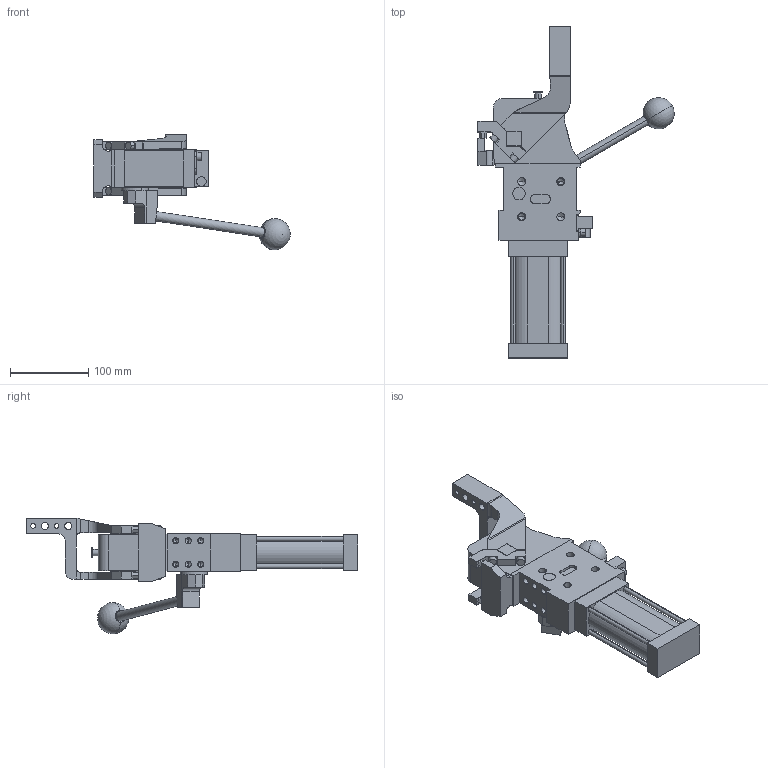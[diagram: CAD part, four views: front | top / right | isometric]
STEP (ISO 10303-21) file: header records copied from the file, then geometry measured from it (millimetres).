
FILE_DESCRIPTION (( 'STEP AP214' ), '1' );
FILE_NAME ('cplm50lbth3ssi1g_75.STEP', '2023-01-26T14:03:50', ( '' ), ( '' ), 'SwSTEP 2.0', 'SolidWorks 2022', '' );
FILE_SCHEMA (( 'AUTOMOTIVE_DESIGN' ));
Length unit declared in the file: millimetre
Products named in the file (5): cplm50lbth3ssi1g_75; meccanica_cplm_50_tassello_esterno; leva_h3ss_cpl50t; blocchetto_VEP_0; comando_manuale_cplm_50
Assembly tree (4 placements, depth 2):
  cplm50lbth3ssi1g_75
    meccanica_cplm_50_tassello_esterno
    blocchetto_VEP_0
    leva_h3ss_cpl50t
    comando_manuale_cplm_50
Bounding box: 250.96 x 424.5 x 148 mm (x, y, z)
Volume: 1523891.4 mm3; surface area: 194396.9 mm2
Topology: 4 solids, 4 shells, 470 faces, 1219 edges, 765 vertices
Faces by surface type: plane 245, cylinder 173, cone 50, sphere 2
Entity records: 15621 total; most frequent: CARTESIAN_POINT 2510, DIRECTION 2469, ORIENTED_EDGE 2336, EDGE_CURVE 1168, AXIS2_PLACEMENT_3D 839, VECTOR 791, LINE 791, VERTEX_POINT 762
